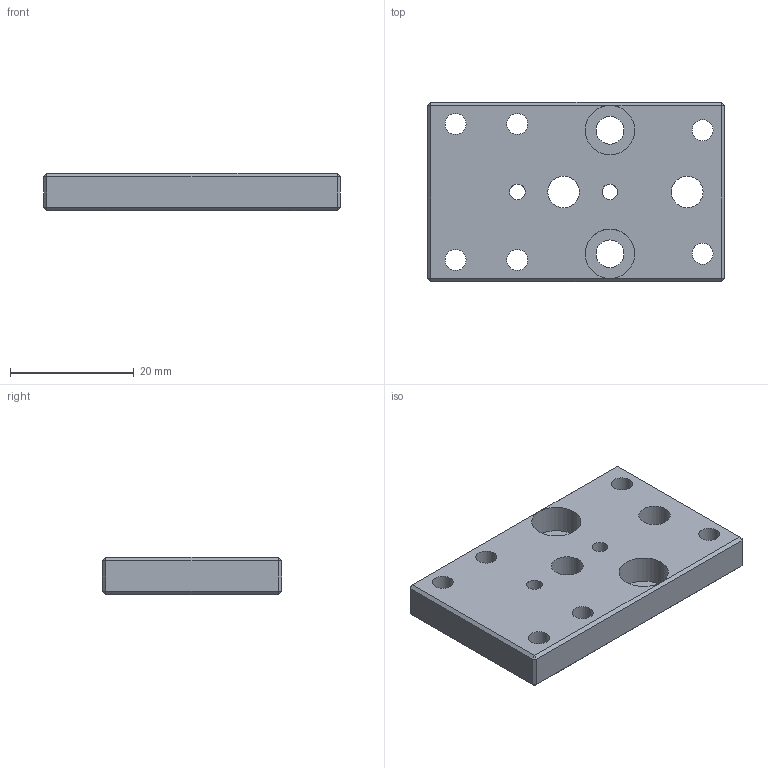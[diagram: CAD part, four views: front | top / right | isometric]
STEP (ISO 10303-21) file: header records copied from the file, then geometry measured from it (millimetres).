
FILE_DESCRIPTION(/* description */ (''),/* implementation_level */ '2;1');
FILE_NAME(/* name */ 'CAM_MNT_HPFD_Kameraadapter.step',/* time_stamp */ '2023-02-03T10:29:49+01:00',/* author */ (''),/* organization */ (''),/* preprocessor_version */ 'ST-DEVELOPER v19.2',/* originating_system */ 'Autodesk Translation Framework v11.17.0.187',/* authorisation */ '');
FILE_SCHEMA (('AUTOMOTIVE_DESIGN { 1 0 10303 214 3 1 1 }'));
Length unit declared in the file: millimetre
Products named in the file (2): 11165173_Mounting_adapter_Type_E_jbl; 11157853
Assembly tree (1 placements, depth 2):
  11165173_Mounting_adapter_Type_E_jbl
    11157853
Bounding box: 48 x 29 x 6 mm (x, y, z)
Volume: 6778.8 mm3; surface area: 4445.3 mm2
Topology: 1 solids, 1 shells, 54 faces, 121 edges, 69 vertices
Faces by surface type: plane 34, cylinder 20
Full cylindrical faces by diameter (mm): 2.529 x2, 3.4 x6, 4.5 x2, 5.116 x2, 6 x6, 8 x2
Entity records: 1639 total; most frequent: DIRECTION 280, CARTESIAN_POINT 247, ORIENTED_EDGE 242, EDGE_CURVE 121, AXIS2_PLACEMENT_3D 102, EDGE_LOOP 78, LINE 76, VECTOR 76
